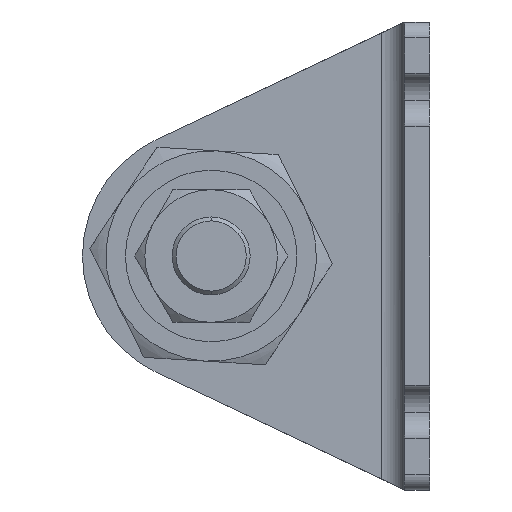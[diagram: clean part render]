
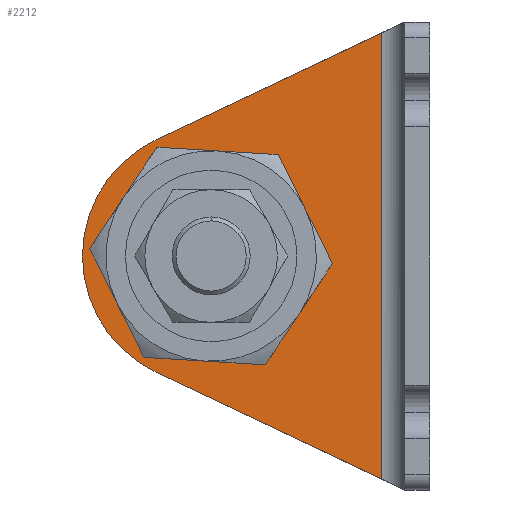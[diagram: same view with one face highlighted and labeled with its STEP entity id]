
A CAD part, left-side view. The second image highlights one B-rep face of the part: STEP entity #2212.
In plain terms, the highlighted planar face has unit normal (-1, 0, 0) as drawn and (1, 0, 0) by its records, which use the part's own axes.
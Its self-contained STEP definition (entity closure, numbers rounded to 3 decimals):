
#29 = EDGE_CURVE ( 'NONE', #3172, #1774, #627, .T. ) ;
#56 = EDGE_CURVE ( 'NONE', #4202, #2319, #1933, .T. ) ;
#62 = DIRECTION ( 'NONE',  ( 1., 0., 0. ) ) ;
#167 = ORIENTED_EDGE ( 'NONE', *, *, #56, .T. ) ;
#238 = VERTEX_POINT ( 'NONE', #991 ) ;
#285 = CARTESIAN_POINT ( 'NONE',  ( 3.2, 6.2, -1.421 ) ) ;
#348 = CIRCLE ( 'NONE', #1596, 11.5 ) ;
#547 = ORIENTED_EDGE ( 'NONE', *, *, #2790, .T. ) ;
#627 = CIRCLE ( 'NONE', #2151, 11.5 ) ;
#673 = EDGE_CURVE ( 'NONE', #1114, #2230, #4061, .T. ) ;
#723 = EDGE_CURVE ( 'NONE', #1774, #3172, #348, .T. ) ;
#949 = VECTOR ( 'NONE', #4118, 1000. ) ;
#991 = CARTESIAN_POINT ( 'NONE',  ( 3.2, 35.062, -15.087 ) ) ;
#1114 = VERTEX_POINT ( 'NONE', #285 ) ;
#1142 = DIRECTION ( 'NONE',  ( 0., 1., 0. ) ) ;
#1329 = DIRECTION ( 'NONE',  ( 0., 1., 0. ) ) ;
#1508 = CARTESIAN_POINT ( 'NONE',  ( 3.2, 35.062, -44.913 ) ) ;
#1523 = VECTOR ( 'NONE', #2501, 1000. ) ;
#1534 = CARTESIAN_POINT ( 'NONE',  ( 3.2, 28., -30. ) ) ;
#1596 = AXIS2_PLACEMENT_3D ( 'NONE', #4047, #3023, #1142 ) ;
#1724 = ORIENTED_EDGE ( 'NONE', *, *, #2323, .T. ) ;
#1729 = VECTOR ( 'NONE', #2405, 1000. ) ;
#1774 = VERTEX_POINT ( 'NONE', #1908 ) ;
#1805 = LINE ( 'NONE', #3371, #949 ) ;
#1815 = FACE_BOUND ( 'NONE', #3346, .T. ) ;
#1872 = DIRECTION ( 'NONE',  ( 1., 0., 0. ) ) ;
#1908 = CARTESIAN_POINT ( 'NONE',  ( 3.2, 39.5, -30. ) ) ;
#1926 = EDGE_LOOP ( 'NONE', ( #2877, #3874, #1724, #167, #547 ) ) ;
#1933 = CIRCLE ( 'NONE', #3880, 16.5 ) ;
#1942 = CARTESIAN_POINT ( 'NONE',  ( 3.2, 6.2, -60. ) ) ;
#2151 = AXIS2_PLACEMENT_3D ( 'NONE', #1534, #3987, #3242 ) ;
#2212 = ADVANCED_FACE ( 'NONE', ( #4343, #1815 ), #3464, .T. ) ;
#2230 = VERTEX_POINT ( 'NONE', #2848 ) ;
#2319 = VERTEX_POINT ( 'NONE', #4269 ) ;
#2323 = EDGE_CURVE ( 'NONE', #2230, #4202, #3220, .T. ) ;
#2333 = ORIENTED_EDGE ( 'NONE', *, *, #723, .F. ) ;
#2405 = DIRECTION ( 'NONE',  ( 0., 0., -1. ) ) ;
#2424 = DIRECTION ( 'NONE',  ( 0., 1., 0. ) ) ;
#2501 = DIRECTION ( 'NONE',  ( 0., 0.904, 0.428 ) ) ;
#2549 = DIRECTION ( 'NONE',  ( 0., 1., 0. ) ) ;
#2790 = EDGE_CURVE ( 'NONE', #2319, #238, #3468, .T. ) ;
#2848 = CARTESIAN_POINT ( 'NONE',  ( 3.2, 6.2, -58.579 ) ) ;
#2864 = CARTESIAN_POINT ( 'NONE',  ( 3.2, 28., -30. ) ) ;
#2877 = ORIENTED_EDGE ( 'NONE', *, *, #3363, .F. ) ;
#3023 = DIRECTION ( 'NONE',  ( 1., 0., 0. ) ) ;
#3172 = VERTEX_POINT ( 'NONE', #3815 ) ;
#3220 = LINE ( 'NONE', #4347, #1523 ) ;
#3242 = DIRECTION ( 'NONE',  ( 0., 1., 0. ) ) ;
#3273 = CARTESIAN_POINT ( 'NONE',  ( 3.2, 3.2, -60. ) ) ;
#3346 = EDGE_LOOP ( 'NONE', ( #2333, #4046 ) ) ;
#3363 = EDGE_CURVE ( 'NONE', #1114, #238, #1805, .T. ) ;
#3371 = CARTESIAN_POINT ( 'NONE',  ( 3.2, 26.408, -10.99 ) ) ;
#3398 = DIRECTION ( 'NONE',  ( 1., 0., 0. ) ) ;
#3443 = AXIS2_PLACEMENT_3D ( 'NONE', #3273, #3398, #2424 ) ;
#3464 = PLANE ( 'NONE',  #3443 ) ;
#3468 = CIRCLE ( 'NONE', #4208, 16.5 ) ;
#3815 = CARTESIAN_POINT ( 'NONE',  ( 3.2, 16.5, -30. ) ) ;
#3874 = ORIENTED_EDGE ( 'NONE', *, *, #673, .T. ) ;
#3880 = AXIS2_PLACEMENT_3D ( 'NONE', #3997, #1872, #2549 ) ;
#3987 = DIRECTION ( 'NONE',  ( 1., 0., 0. ) ) ;
#3997 = CARTESIAN_POINT ( 'NONE',  ( 3.2, 28., -30. ) ) ;
#4046 = ORIENTED_EDGE ( 'NONE', *, *, #29, .F. ) ;
#4047 = CARTESIAN_POINT ( 'NONE',  ( 3.2, 28., -30. ) ) ;
#4061 = LINE ( 'NONE', #1942, #1729 ) ;
#4118 = DIRECTION ( 'NONE',  ( 0., 0.904, -0.428 ) ) ;
#4202 = VERTEX_POINT ( 'NONE', #1508 ) ;
#4208 = AXIS2_PLACEMENT_3D ( 'NONE', #2864, #62, #1329 ) ;
#4269 = CARTESIAN_POINT ( 'NONE',  ( 3.2, 44.5, -30. ) ) ;
#4343 = FACE_OUTER_BOUND ( 'NONE', #1926, .T. ) ;
#4347 = CARTESIAN_POINT ( 'NONE',  ( 3.2, 3.2, -60. ) ) ;
